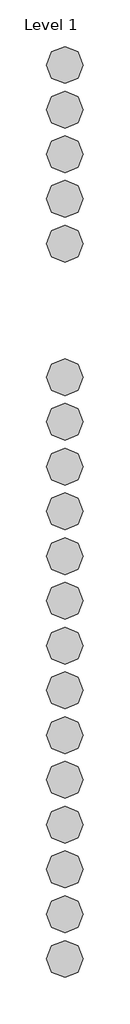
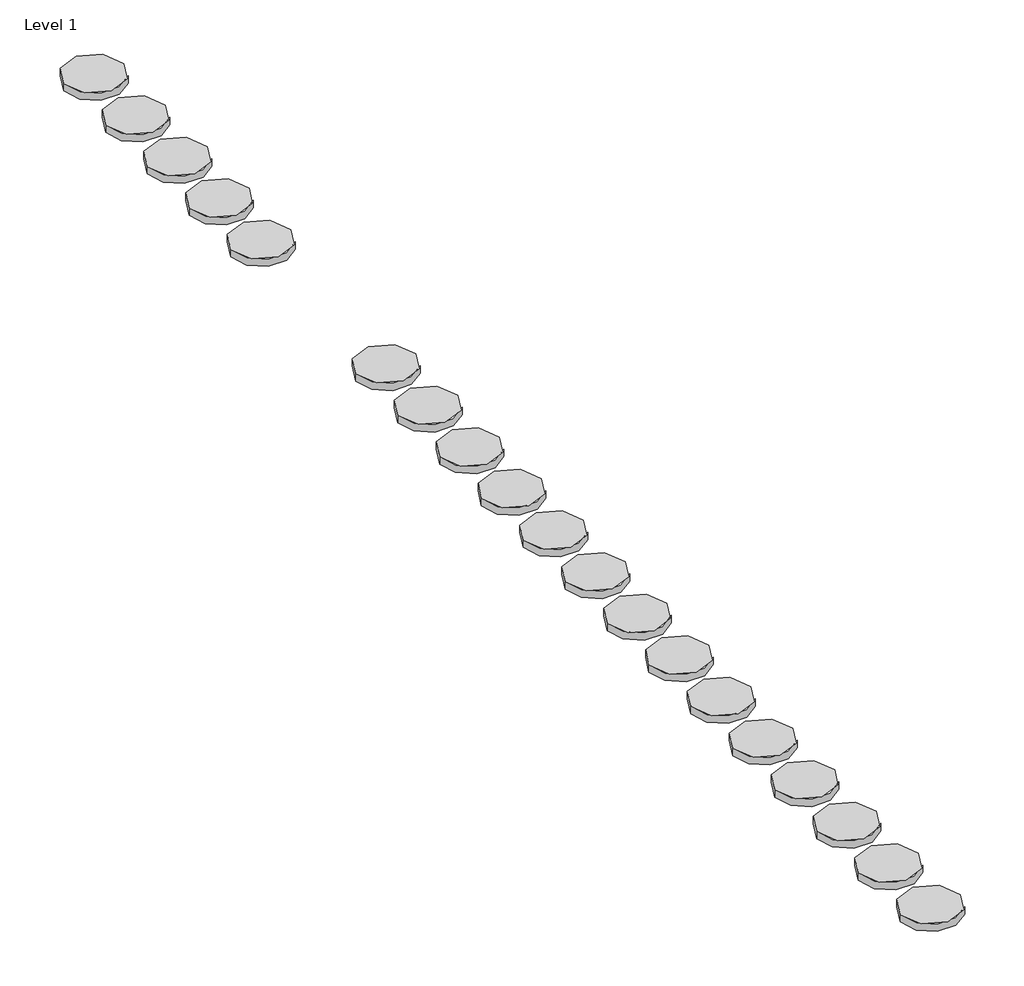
# One storey, incomplete: 19 proxies.
"""IFC4 building model written with IfcOpenShell, lengths in millimetres."""

from ifc_helpers import new_model, si_unit, origin, place, context, project, spatial, transform, mapped, element, save
from components import materialmodel_materialmodel_e06f5e47

model = new_model("IFC4")

# Units and contexts
model_context = context("Model", 3, world=origin())
ifc_project = project(units=[si_unit("LENGTHUNIT", "METRE", prefix="MILLI")], contexts=[model_context])

# Site, building, storey
site = spatial("IfcSite", under=ifc_project)
building = spatial("IfcBuilding", under=site)
storey = spatial("IfcBuildingStorey", under=building, Name="Level 1", Elevation=0.0)

# Proxies
placement = place(None, origin())
materialmodel_materialmodel_shape = materialmodel_materialmodel_e06f5e47(model_context)
element("IfcBuildingElementProxy", 1, Name="MaterialModel : MaterialModel", ObjectType="MaterialModel : MaterialModel", at=placement, inside=storey, context=model_context, shape_type="MappedRepresentation", body=[
    mapped(materialmodel_materialmodel_shape, transform((-13327.2893399, 2686.2452804, 0.0), x_axis=(1.0, 0.0, 0.0), y_axis=(0.0, 1.0, 0.0), z_axis=(0.0, 0.0, 1.0))),
])
element("IfcBuildingElementProxy", 2, Name="MaterialModel : MaterialModel", ObjectType="MaterialModel : MaterialModel", at=placement, inside=storey, context=model_context, shape_type="MappedRepresentation", body=[
    mapped(materialmodel_materialmodel_shape, transform((-13327.2893399, 2540.860665, 0.0), x_axis=(1.0, 0.0, 0.0), y_axis=(0.0, 1.0, 0.0), z_axis=(0.0, 0.0, 1.0))),
])
element("IfcBuildingElementProxy", 3, Name="MaterialModel : MaterialModel", ObjectType="MaterialModel : MaterialModel", at=placement, inside=storey, context=model_context, shape_type="MappedRepresentation", body=[
    mapped(materialmodel_materialmodel_shape, transform((-13327.2893399, 2395.4760496, 0.0), x_axis=(1.0, 0.0, 0.0), y_axis=(0.0, 1.0, 0.0), z_axis=(0.0, 0.0, 1.0))),
])
element("IfcBuildingElementProxy", 4, Name="MaterialModel : MaterialModel", ObjectType="MaterialModel : MaterialModel", at=placement, inside=storey, context=model_context, shape_type="MappedRepresentation", body=[
    mapped(materialmodel_materialmodel_shape, transform((-13327.2893399, 2250.0914342, 0.0), x_axis=(1.0, 0.0, 0.0), y_axis=(0.0, 1.0, 0.0), z_axis=(0.0, 0.0, 1.0))),
])
element("IfcBuildingElementProxy", 5, Name="MaterialModel : MaterialModel", ObjectType="MaterialModel : MaterialModel", at=placement, inside=storey, context=model_context, shape_type="MappedRepresentation", body=[
    mapped(materialmodel_materialmodel_shape, transform((-13327.2893399, 2104.7068188, 0.0), x_axis=(1.0, 0.0, 0.0), y_axis=(0.0, 1.0, 0.0), z_axis=(0.0, 0.0, 1.0))),
])
element("IfcBuildingElementProxy", 6, Name="MaterialModel : MaterialModel", ObjectType="MaterialModel : MaterialModel", at=placement, inside=storey, context=model_context, shape_type="MappedRepresentation", body=[
    mapped(materialmodel_materialmodel_shape, transform((-13327.2893399, 1959.3222034, 0.0), x_axis=(1.0, 0.0, 0.0), y_axis=(0.0, 1.0, 0.0), z_axis=(0.0, 0.0, 1.0))),
])
element("IfcBuildingElementProxy", 7, Name="MaterialModel : MaterialModel", ObjectType="MaterialModel : MaterialModel", at=placement, inside=storey, context=model_context, shape_type="MappedRepresentation", body=[
    mapped(materialmodel_materialmodel_shape, transform((-13327.2893399, 1813.9375881, 0.0), x_axis=(1.0, 0.0, 0.0), y_axis=(0.0, 1.0, 0.0), z_axis=(0.0, 0.0, 1.0))),
])
element("IfcBuildingElementProxy", 8, Name="MaterialModel : MaterialModel", ObjectType="MaterialModel : MaterialModel", at=placement, inside=storey, context=model_context, shape_type="MappedRepresentation", body=[
    mapped(materialmodel_materialmodel_shape, transform((-13327.2893399, 1668.5529727, 0.0), x_axis=(1.0, 0.0, 0.0), y_axis=(0.0, 1.0, 0.0), z_axis=(0.0, 0.0, 1.0))),
])
element("IfcBuildingElementProxy", 9, Name="MaterialModel : MaterialModel", ObjectType="MaterialModel : MaterialModel", at=placement, inside=storey, context=model_context, shape_type="MappedRepresentation", body=[
    mapped(materialmodel_materialmodel_shape, transform((-13327.2893399, 1523.1683573, 0.0), x_axis=(1.0, 0.0, 0.0), y_axis=(0.0, 1.0, 0.0), z_axis=(0.0, 0.0, 1.0))),
])
element("IfcBuildingElementProxy", 10, Name="MaterialModel : MaterialModel", ObjectType="MaterialModel : MaterialModel", at=placement, inside=storey, context=model_context, shape_type="MappedRepresentation", body=[
    mapped(materialmodel_materialmodel_shape, transform((-13327.2893399, 1377.7837419, 0.0), x_axis=(1.0, 0.0, 0.0), y_axis=(0.0, 1.0, 0.0), z_axis=(0.0, 0.0, 1.0))),
])
element("IfcBuildingElementProxy", 11, Name="MaterialModel : MaterialModel", ObjectType="MaterialModel : MaterialModel", at=placement, inside=storey, context=model_context, shape_type="MappedRepresentation", body=[
    mapped(materialmodel_materialmodel_shape, transform((-13327.2893399, 1232.3991265, 0.0), x_axis=(1.0, 0.0, 0.0), y_axis=(0.0, 1.0, 0.0), z_axis=(0.0, 0.0, 1.0))),
])
element("IfcBuildingElementProxy", 12, Name="MaterialModel : MaterialModel", ObjectType="MaterialModel : MaterialModel", at=placement, inside=storey, context=model_context, shape_type="MappedRepresentation", body=[
    mapped(materialmodel_materialmodel_shape, transform((-13327.2893399, 4135.9624214, 0.0), x_axis=(1.0, 0.0, 0.0), y_axis=(0.0, 1.0, 0.0), z_axis=(0.0, 0.0, 1.0))),
])
element("IfcBuildingElementProxy", 13, Name="MaterialModel : MaterialModel", ObjectType="MaterialModel : MaterialModel", at=placement, inside=storey, context=model_context, shape_type="MappedRepresentation", body=[
    mapped(materialmodel_materialmodel_shape, transform((-13327.2893399, 3990.9624214, 0.0), x_axis=(1.0, 0.0, 0.0), y_axis=(0.0, 1.0, 0.0), z_axis=(0.0, 0.0, 1.0))),
])
element("IfcBuildingElementProxy", 14, Name="MaterialModel : MaterialModel", ObjectType="MaterialModel : MaterialModel", at=placement, inside=storey, context=model_context, shape_type="MappedRepresentation", body=[
    mapped(materialmodel_materialmodel_shape, transform((-13327.2893399, 3845.9624214, 0.0), x_axis=(1.0, 0.0, 0.0), y_axis=(0.0, 1.0, 0.0), z_axis=(0.0, 0.0, 1.0))),
])
element("IfcBuildingElementProxy", 15, Name="MaterialModel : MaterialModel", ObjectType="MaterialModel : MaterialModel", at=placement, inside=storey, context=model_context, shape_type="MappedRepresentation", body=[
    mapped(materialmodel_materialmodel_shape, transform((-13327.2893399, 3700.9624214, 0.0), x_axis=(1.0, 0.0, 0.0), y_axis=(0.0, 1.0, 0.0), z_axis=(0.0, 0.0, 1.0))),
])
element("IfcBuildingElementProxy", 16, Name="MaterialModel : MaterialModel", ObjectType="MaterialModel : MaterialModel", at=placement, inside=storey, context=model_context, shape_type="MappedRepresentation", body=[
    mapped(materialmodel_materialmodel_shape, transform((-13327.2893399, 3555.9624214, 0.0), x_axis=(1.0, 0.0, 0.0), y_axis=(0.0, 1.0, 0.0), z_axis=(0.0, 0.0, 1.0))),
])
element("IfcBuildingElementProxy", 17, Name="MaterialModel : MaterialModel", ObjectType="MaterialModel : MaterialModel", at=placement, inside=storey, context=model_context, shape_type="MappedRepresentation", body=[
    mapped(materialmodel_materialmodel_shape, transform((-13327.2893399, 2831.6298957, 0.0), x_axis=(1.0, 0.0, 0.0), y_axis=(0.0, 1.0, 0.0), z_axis=(0.0, 0.0, 1.0))),
])
element("IfcBuildingElementProxy", 18, Name="MaterialModel : MaterialModel", ObjectType="MaterialModel : MaterialModel", at=placement, inside=storey, context=model_context, shape_type="MappedRepresentation", body=[
    mapped(materialmodel_materialmodel_shape, transform((-13327.2893399, 3122.3991265, 0.0), x_axis=(1.0, 0.0, 0.0), y_axis=(0.0, 1.0, 0.0), z_axis=(0.0, 0.0, 1.0))),
])
element("IfcBuildingElementProxy", 19, Name="MaterialModel : MaterialModel", ObjectType="MaterialModel : MaterialModel", at=placement, inside=storey, context=model_context, shape_type="MappedRepresentation", body=[
    mapped(materialmodel_materialmodel_shape, transform((-13327.2893399, 2977.0145111, 0.0), x_axis=(1.0, 0.0, 0.0), y_axis=(0.0, 1.0, 0.0), z_axis=(0.0, 0.0, 1.0))),
])

save(model, "model.ifc")
